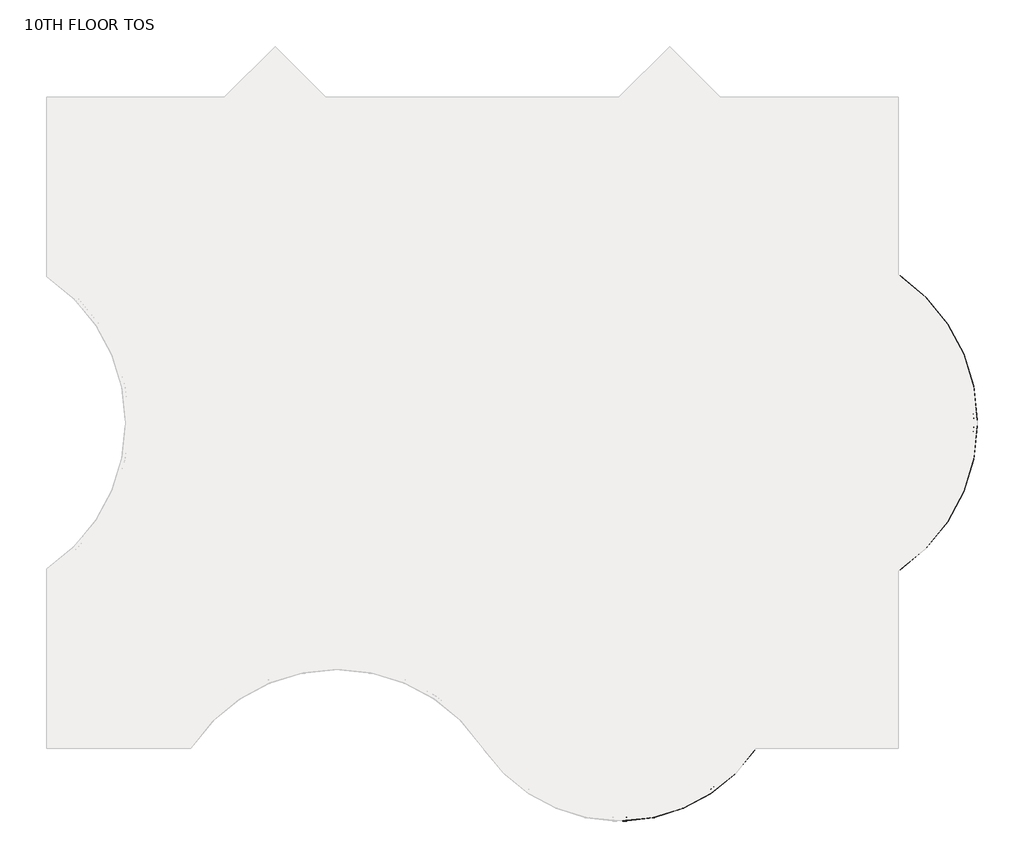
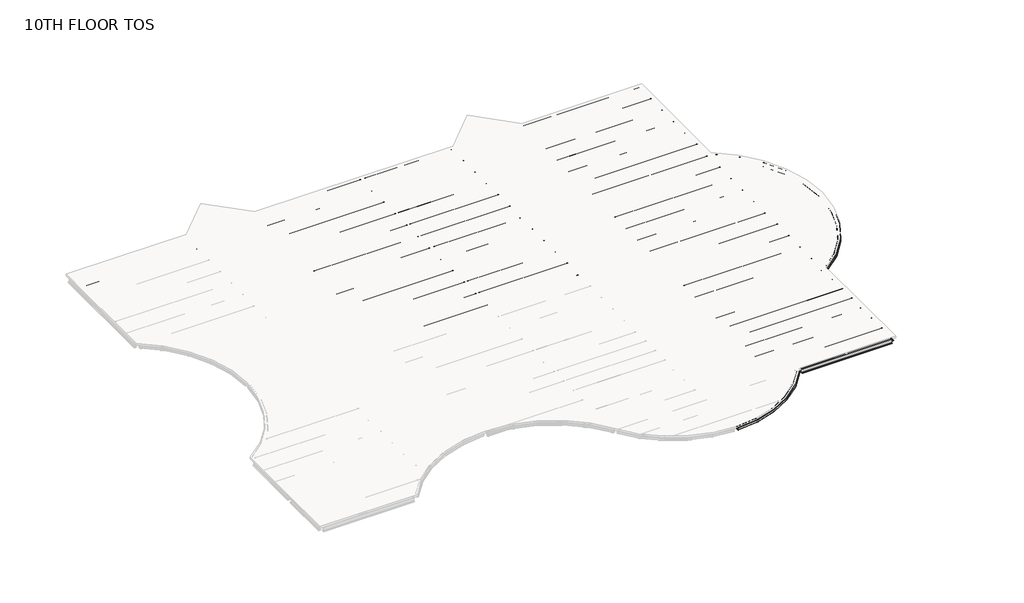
# One storey, part 2 of 2: 110 beams.
"""IFC4 building model written with IfcOpenShell, lengths in millimetres."""

from ifc_helpers import new_model, si_unit, origin, place, context, project, spatial, transform, mapped, element, save
from components import m_hss_square_hss203_2x203_2x9_5_28e91a4e, m_hss_square_hss203_2x203_2x9_5_f31329aa, m_hss_square_hss203_2x203_2x9_5_63507dff, ub_universal_beams_ub254x102x28_7812688d, ub_universal_beams_ub254x102x28_4a38c177, ub_universal_beams_ub305x165x40_c4d0385b, ub_universal_beams_ub305x165x40_19965e16, ub_universal_beams_ub305x165x40_d3abc31d, ub_universal_beams_ub305x165x40_0c73730f, ub_universal_beams_ub305x165x40_2a963f0c, ub_universal_beams_ub305x165x40_9ce7f2ee, ub_universal_beams_ub305x165x40_d184adfd, ub_universal_beams_ub305x165x40_bc7dc938, ub_universal_beams_ub305x165x40_b4233d25, ub_universal_beams_ub356x171x51_c708c058, ub_universal_beams_ub356x171x51_ef72dcdd, ub_universal_beams_ub356x171x51_10b3c54f, ub_universal_beams_ub356x171x51_4c9fd821, ub_universal_beams_ub356x171x51_d1a87c3c, ub_universal_beams_ub356x171x51_fa75724b, ub_universal_beams_ub356x171x51_68db896e, ub_universal_beams_ub356x171x51_c634c4a6, ub_universal_beams_ub356x171x51_995f1560, ub_universal_beams_ub356x171x51_dfc36663, ub_universal_beams_ub356x171x51_11d6b780, ub_universal_beams_ub356x171x51_76b2d20b, ub_universal_beams_ub356x171x51_145ecd4b, ub_universal_beams_ub356x171x51_c7dff8d2, ub_universal_beams_ub356x171x51_8a345439, ub_universal_beams_ub356x171x51_6da510e9, ub_universal_beams_ub356x171x51_e97f8d2e, ub_universal_beams_ub356x171x51_a38b99de, ub_universal_beams_ub356x171x51_d8f4cdde, ub_universal_beams_ub356x171x51_475301e6, ub_universal_beams_ub356x171x51_c03c70fb, ub_universal_beams_ub356x171x51_741bae58

model = new_model("IFC4")

# Units and contexts
model_context = context("Model", 3, world=origin())
ifc_project = project(units=[si_unit("LENGTHUNIT", "METRE", prefix="MILLI")], contexts=[model_context])

# Site, building, storey
site = spatial("IfcSite", under=ifc_project)
building = spatial("IfcBuilding", under=site)
storey = spatial("IfcBuildingStorey", under=building, Name="10TH FLOOR TOS", Elevation=45567.6)

# Beams
placement = place(None, origin())
m_hss_square_hss203_2x203_2x9_5_shape = m_hss_square_hss203_2x203_2x9_5_28e91a4e(model_context)
element("IfcBeam", 1, ObjectType="M_HSS Square : HSS203.2X203.2X9.5", at=placement, inside=storey, context=model_context, shape_type="MappedRepresentation", body=[
    mapped(m_hss_square_hss203_2x203_2x9_5_shape, transform((44027.575, 24539.575, 45466.1), x_axis=(0.8332810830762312, -0.5528495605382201, 0.0), y_axis=(0.5528495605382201, 0.8332810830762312, 0.0), z_axis=(0.0, 0.0, 1.0))),
])
m_hss_square_hss203_2x203_2x9_5_2_shape = m_hss_square_hss203_2x203_2x9_5_f31329aa(model_context)
element("IfcBeam", 2, ObjectType="M_HSS Square : HSS203.2X203.2X9.5", at=placement, inside=storey, context=model_context, shape_type="MappedRepresentation", body=[
    mapped(m_hss_square_hss203_2x203_2x9_5_2_shape, transform((44027.575, 9299.575, 45466.1), x_axis=(0.8332810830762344, 0.5528495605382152, 0.0), y_axis=(-0.5528495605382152, 0.8332810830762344, 0.0), z_axis=(0.0, 0.0, 1.0))),
])
m_hss_square_hss203_2x203_2x9_5_3_shape = m_hss_square_hss203_2x203_2x9_5_63507dff(model_context)
element("IfcBeam", 3, ObjectType="M_HSS Square : HSS203.2X203.2X9.5", at=placement, inside=storey, context=model_context, shape_type="MappedRepresentation", body=[
    mapped(m_hss_square_hss203_2x203_2x9_5_3_shape, transform((36716.575, 155.575, 45466.1), x_axis=(-0.5530174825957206, -0.8331696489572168, 0.0), y_axis=(0.8331696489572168, -0.5530174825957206, 0.0), z_axis=(0.0, 0.0, 1.0))),
])
ub_universal_beams_ub254x102x28_shape = ub_universal_beams_ub254x102x28_7812688d(model_context)
element("IfcBeam", 4, ObjectType="UB-Universal Beams : UB254x102x28", at=placement, inside=storey, context=model_context, shape_type="MappedRepresentation", body=[
    mapped(ub_universal_beams_ub254x102x28_shape, transform((10592.575, 34976.575, 45437.4), x_axis=(0.7071067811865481, 0.7071067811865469, 0.0), y_axis=(-0.7071067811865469, 0.7071067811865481, 0.0), z_axis=(0.0, 0.0, 1.0))),
])
element("IfcBeam", 5, ObjectType="UB-Universal Beams : UB254x102x28", at=placement, inside=storey, context=model_context, shape_type="MappedRepresentation", body=[
    mapped(ub_universal_beams_ub254x102x28_shape, transform((31004.575, 34976.575, 45437.4), x_axis=(0.7071067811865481, 0.7071067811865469, 0.0), y_axis=(-0.7071067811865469, 0.7071067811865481, 0.0), z_axis=(0.0, 0.0, 1.0))),
])
ub_universal_beams_ub254x102x28_2_shape = ub_universal_beams_ub254x102x28_4a38c177(model_context)
element("IfcBeam", 6, ObjectType="UB-Universal Beams : UB254x102x28", at=placement, inside=storey, context=model_context, shape_type="MappedRepresentation", body=[
    mapped(ub_universal_beams_ub254x102x28_2_shape, transform((13178.575, 34976.575, 45437.4), x_axis=(0.707106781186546, -0.707106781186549, 0.0), y_axis=(0.707106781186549, 0.707106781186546, 0.0), z_axis=(0.0, 0.0, 1.0))),
])
element("IfcBeam", 7, ObjectType="UB-Universal Beams : UB254x102x28", at=placement, inside=storey, context=model_context, shape_type="MappedRepresentation", body=[
    mapped(ub_universal_beams_ub254x102x28_2_shape, transform((33590.575, 34976.575, 45437.4), x_axis=(0.7071067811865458, -0.7071067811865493, 0.0), y_axis=(0.7071067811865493, 0.7071067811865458, 0.0), z_axis=(0.0, 0.0, 1.0))),
])
ub_universal_beams_ub305x165x40_shape = ub_universal_beams_ub305x165x40_c4d0385b(model_context)
element("IfcBeam", 8, ObjectType="UB-Universal Beams : UB305x165x40", at=placement, inside=storey, context=model_context, shape_type="MappedRepresentation", body=[
    mapped(ub_universal_beams_ub305x165x40_shape, transform((4727.575, 32159.575, 45415.9), x_axis=(1.0, 0.0, 0.0), y_axis=(0.0, 1.0, 0.0), z_axis=(0.0, 0.0, 1.0))),
])
element("IfcBeam", 9, ObjectType="UB-Universal Beams : UB305x165x40", at=placement, inside=storey, context=model_context, shape_type="MappedRepresentation", body=[
    mapped(ub_universal_beams_ub305x165x40_shape, transform((39455.575, 32159.575, 45415.9), x_axis=(1.0, 0.0, 0.0), y_axis=(0.0, 1.0, 0.0), z_axis=(0.0, 0.0, 1.0))),
])
element("IfcBeam", 10, ObjectType="UB-Universal Beams : UB305x165x40", at=placement, inside=storey, context=model_context, shape_type="MappedRepresentation", body=[
    mapped(ub_universal_beams_ub305x165x40_shape, transform((39455.575, 30635.575, 45415.9), x_axis=(1.0, 0.0, 0.0), y_axis=(0.0, 1.0, 0.0), z_axis=(0.0, 0.0, 1.0))),
])
element("IfcBeam", 11, ObjectType="UB-Universal Beams : UB305x165x40", at=placement, inside=storey, context=model_context, shape_type="MappedRepresentation", body=[
    mapped(ub_universal_beams_ub305x165x40_shape, transform((39455.575, 29111.575, 45415.9), x_axis=(1.0, 0.0, 0.0), y_axis=(0.0, 1.0, 0.0), z_axis=(0.0, 0.0, 1.0))),
])
element("IfcBeam", 12, ObjectType="UB-Universal Beams : UB305x165x40", at=placement, inside=storey, context=model_context, shape_type="MappedRepresentation", body=[
    mapped(ub_universal_beams_ub305x165x40_shape, transform((39455.575, 27587.575, 45415.9), x_axis=(1.0, 0.0, 0.0), y_axis=(0.0, 1.0, 0.0), z_axis=(0.0, 0.0, 1.0))),
])
element("IfcBeam", 13, ObjectType="UB-Universal Beams : UB305x165x40", at=placement, inside=storey, context=model_context, shape_type="MappedRepresentation", body=[
    mapped(ub_universal_beams_ub305x165x40_shape, transform((39455.575, 26063.575, 45415.9), x_axis=(1.0, 0.0, 0.0), y_axis=(0.0, 1.0, 0.0), z_axis=(0.0, 0.0, 1.0))),
])
element("IfcBeam", 14, ObjectType="UB-Universal Beams : UB305x165x40", at=placement, inside=storey, context=model_context, shape_type="MappedRepresentation", body=[
    mapped(ub_universal_beams_ub305x165x40_shape, transform((39455.575, 23015.575, 45415.9), x_axis=(1.0, 0.0, 0.0), y_axis=(0.0, 1.0, 0.0), z_axis=(0.0, 0.0, 1.0))),
])
element("IfcBeam", 15, ObjectType="UB-Universal Beams : UB305x165x40", at=placement, inside=storey, context=model_context, shape_type="MappedRepresentation", body=[
    mapped(ub_universal_beams_ub305x165x40_shape, transform((39455.575, 21491.575, 45415.9), x_axis=(1.0, 0.0, 0.0), y_axis=(0.0, 1.0, 0.0), z_axis=(0.0, 0.0, 1.0))),
])
element("IfcBeam", 16, ObjectType="UB-Universal Beams : UB305x165x40", at=placement, inside=storey, context=model_context, shape_type="MappedRepresentation", body=[
    mapped(ub_universal_beams_ub305x165x40_shape, transform((39455.575, 19967.575, 45415.9), x_axis=(1.0, 0.0, 0.0), y_axis=(0.0, 1.0, 0.0), z_axis=(0.0, 0.0, 1.0))),
])
element("IfcBeam", 17, ObjectType="UB-Universal Beams : UB305x165x40", at=placement, inside=storey, context=model_context, shape_type="MappedRepresentation", body=[
    mapped(ub_universal_beams_ub305x165x40_shape, transform((39455.575, 18443.575, 45415.9), x_axis=(1.0, 0.0, 0.0), y_axis=(0.0, 1.0, 0.0), z_axis=(0.0, 0.0, 1.0))),
])
element("IfcBeam", 18, ObjectType="UB-Universal Beams : UB305x165x40", at=placement, inside=storey, context=model_context, shape_type="MappedRepresentation", body=[
    mapped(ub_universal_beams_ub305x165x40_shape, transform((39455.575, 15395.575, 45415.9), x_axis=(1.0, 0.0, 0.0), y_axis=(0.0, 1.0, 0.0), z_axis=(0.0, 0.0, 1.0))),
])
element("IfcBeam", 19, ObjectType="UB-Universal Beams : UB305x165x40", at=placement, inside=storey, context=model_context, shape_type="MappedRepresentation", body=[
    mapped(ub_universal_beams_ub305x165x40_shape, transform((39455.575, 13871.575, 45415.9), x_axis=(1.0, 0.0, 0.0), y_axis=(0.0, 1.0, 0.0), z_axis=(0.0, 0.0, 1.0))),
])
element("IfcBeam", 20, ObjectType="UB-Universal Beams : UB305x165x40", at=placement, inside=storey, context=model_context, shape_type="MappedRepresentation", body=[
    mapped(ub_universal_beams_ub305x165x40_shape, transform((39455.575, 12347.575, 45415.9), x_axis=(1.0, 0.0, 0.0), y_axis=(0.0, 1.0, 0.0), z_axis=(0.0, 0.0, 1.0))),
])
element("IfcBeam", 21, ObjectType="UB-Universal Beams : UB305x165x40", at=placement, inside=storey, context=model_context, shape_type="MappedRepresentation", body=[
    mapped(ub_universal_beams_ub305x165x40_shape, transform((39455.575, 10823.575, 45415.9), x_axis=(1.0, 0.0, 0.0), y_axis=(0.0, 1.0, 0.0), z_axis=(0.0, 0.0, 1.0))),
])
element("IfcBeam", 22, ObjectType="UB-Universal Beams : UB305x165x40", at=placement, inside=storey, context=model_context, shape_type="MappedRepresentation", body=[
    mapped(ub_universal_beams_ub305x165x40_shape, transform((39455.575, 5508.325, 45415.9), x_axis=(-1.0, 0.0, 0.0), y_axis=(0.0, -1.0, 0.0), z_axis=(0.0, 0.0, 1.0))),
])
element("IfcBeam", 23, ObjectType="UB-Universal Beams : UB305x165x40", at=placement, inside=storey, context=model_context, shape_type="MappedRepresentation", body=[
    mapped(ub_universal_beams_ub305x165x40_shape, transform((39455.575, 6772.075, 45415.9), x_axis=(-1.0, 0.0, 0.0), y_axis=(0.0, -1.0, 0.0), z_axis=(0.0, 0.0, 1.0))),
])
element("IfcBeam", 24, ObjectType="UB-Universal Beams : UB305x165x40", at=placement, inside=storey, context=model_context, shape_type="MappedRepresentation", body=[
    mapped(ub_universal_beams_ub305x165x40_shape, transform((39455.575, 8035.825, 45415.9), x_axis=(-1.0, 0.0, 0.0), y_axis=(0.0, -1.0, 0.0), z_axis=(0.0, 0.0, 1.0))),
])
element("IfcBeam", 25, ObjectType="UB-Universal Beams : UB305x165x40", at=placement, inside=storey, context=model_context, shape_type="MappedRepresentation", body=[
    mapped(ub_universal_beams_ub305x165x40_shape, transform((39455.575, 1518.575, 45415.9), x_axis=(-1.0, 0.0, 0.0), y_axis=(0.0, -1.0, 0.0), z_axis=(0.0, 0.0, 1.0))),
])
element("IfcBeam", 26, ObjectType="UB-Universal Beams : UB305x165x40", at=placement, inside=storey, context=model_context, shape_type="MappedRepresentation", body=[
    mapped(ub_universal_beams_ub305x165x40_shape, transform((39455.575, 2881.575, 45415.9), x_axis=(-1.0, 0.0, 0.0), y_axis=(0.0, -1.0, 0.0), z_axis=(0.0, 0.0, 1.0))),
])
ub_universal_beams_ub305x165x40_2_shape = ub_universal_beams_ub305x165x40_19965e16(model_context)
element("IfcBeam", 27, ObjectType="UB-Universal Beams : UB305x165x40", at=placement, inside=storey, context=model_context, shape_type="MappedRepresentation", body=[
    mapped(ub_universal_beams_ub305x165x40_2_shape, transform((11885.575, 34803.325, 45415.9), x_axis=(1.0, 0.0, 0.0), y_axis=(0.0, 1.0, 0.0), z_axis=(0.0, 0.0, 1.0))),
])
element("IfcBeam", 28, ObjectType="UB-Universal Beams : UB305x165x40", at=placement, inside=storey, context=model_context, shape_type="MappedRepresentation", body=[
    mapped(ub_universal_beams_ub305x165x40_2_shape, transform((32297.575, 34803.325, 45415.9), x_axis=(1.0, 0.0, 0.0), y_axis=(0.0, 1.0, 0.0), z_axis=(0.0, 0.0, 1.0))),
])
ub_universal_beams_ub305x165x40_3_shape = ub_universal_beams_ub305x165x40_d3abc31d(model_context)
element("IfcBeam", 29, ObjectType="UB-Universal Beams : UB305x165x40", at=placement, inside=storey, context=model_context, shape_type="MappedRepresentation", body=[
    mapped(ub_universal_beams_ub305x165x40_3_shape, transform((11885.575, 33337.075, 45415.9), x_axis=(1.0, 0.0, 0.0), y_axis=(0.0, 1.0, 0.0), z_axis=(0.0, 0.0, 1.0))),
])
element("IfcBeam", 30, ObjectType="UB-Universal Beams : UB305x165x40", at=placement, inside=storey, context=model_context, shape_type="MappedRepresentation", body=[
    mapped(ub_universal_beams_ub305x165x40_3_shape, transform((11885.575, 31870.825, 45415.9), x_axis=(1.0, 0.0, 0.0), y_axis=(0.0, 1.0, 0.0), z_axis=(0.0, 0.0, 1.0))),
])
element("IfcBeam", 31, ObjectType="UB-Universal Beams : UB305x165x40", at=placement, inside=storey, context=model_context, shape_type="MappedRepresentation", body=[
    mapped(ub_universal_beams_ub305x165x40_3_shape, transform((11885.575, 30404.575, 45415.9), x_axis=(1.0, 0.0, 0.0), y_axis=(0.0, 1.0, 0.0), z_axis=(0.0, 0.0, 1.0))),
])
element("IfcBeam", 32, ObjectType="UB-Universal Beams : UB305x165x40", at=placement, inside=storey, context=model_context, shape_type="MappedRepresentation", body=[
    mapped(ub_universal_beams_ub305x165x40_3_shape, transform((32297.575, 33337.075, 45415.9), x_axis=(1.0, 0.0, 0.0), y_axis=(0.0, 1.0, 0.0), z_axis=(0.0, 0.0, 1.0))),
])
element("IfcBeam", 33, ObjectType="UB-Universal Beams : UB305x165x40", at=placement, inside=storey, context=model_context, shape_type="MappedRepresentation", body=[
    mapped(ub_universal_beams_ub305x165x40_3_shape, transform((32297.575, 31870.825, 45415.9), x_axis=(1.0, 0.0, 0.0), y_axis=(0.0, 1.0, 0.0), z_axis=(0.0, 0.0, 1.0))),
])
element("IfcBeam", 34, ObjectType="UB-Universal Beams : UB305x165x40", at=placement, inside=storey, context=model_context, shape_type="MappedRepresentation", body=[
    mapped(ub_universal_beams_ub305x165x40_3_shape, transform((32297.575, 30404.575, 45415.9), x_axis=(1.0, 0.0, 0.0), y_axis=(0.0, 1.0, 0.0), z_axis=(0.0, 0.0, 1.0))),
])
element("IfcBeam", 35, ObjectType="UB-Universal Beams : UB305x165x40", at=placement, inside=storey, context=model_context, shape_type="MappedRepresentation", body=[
    mapped(ub_universal_beams_ub305x165x40_3_shape, transform((32297.575, 28938.325, 45415.9), x_axis=(1.0, 0.0, 0.0), y_axis=(0.0, 1.0, 0.0), z_axis=(0.0, 0.0, 1.0))),
])
element("IfcBeam", 36, ObjectType="UB-Universal Beams : UB305x165x40", at=placement, inside=storey, context=model_context, shape_type="MappedRepresentation", body=[
    mapped(ub_universal_beams_ub305x165x40_3_shape, transform((32297.575, 27472.075, 45415.9), x_axis=(1.0, 0.0, 0.0), y_axis=(0.0, 1.0, 0.0), z_axis=(0.0, 0.0, 1.0))),
])
element("IfcBeam", 37, ObjectType="UB-Universal Beams : UB305x165x40", at=placement, inside=storey, context=model_context, shape_type="MappedRepresentation", body=[
    mapped(ub_universal_beams_ub305x165x40_3_shape, transform((32297.575, 26005.825, 45415.9), x_axis=(1.0, 0.0, 0.0), y_axis=(0.0, 1.0, 0.0), z_axis=(0.0, 0.0, 1.0))),
])
element("IfcBeam", 38, ObjectType="UB-Universal Beams : UB305x165x40", at=placement, inside=storey, context=model_context, shape_type="MappedRepresentation", body=[
    mapped(ub_universal_beams_ub305x165x40_3_shape, transform((32297.575, 1518.575, 45415.9), x_axis=(-1.0, 0.0, 0.0), y_axis=(0.0, -1.0, 0.0), z_axis=(0.0, 0.0, 1.0))),
])
element("IfcBeam", 39, ObjectType="UB-Universal Beams : UB305x165x40", at=placement, inside=storey, context=model_context, shape_type="MappedRepresentation", body=[
    mapped(ub_universal_beams_ub305x165x40_3_shape, transform((32297.575, 2881.575, 45415.9), x_axis=(-1.0, 0.0, 0.0), y_axis=(0.0, -1.0, 0.0), z_axis=(0.0, 0.0, 1.0))),
])
element("IfcBeam", 40, ObjectType="UB-Universal Beams : UB305x165x40", at=placement, inside=storey, context=model_context, shape_type="MappedRepresentation", body=[
    mapped(ub_universal_beams_ub305x165x40_3_shape, transform((32297.575, 5508.325, 45415.9), x_axis=(-1.0, 0.0, 0.0), y_axis=(0.0, -1.0, 0.0), z_axis=(0.0, 0.0, 1.0))),
])
element("IfcBeam", 41, ObjectType="UB-Universal Beams : UB305x165x40", at=placement, inside=storey, context=model_context, shape_type="MappedRepresentation", body=[
    mapped(ub_universal_beams_ub305x165x40_3_shape, transform((32297.575, 6772.075, 45415.9), x_axis=(-1.0, 0.0, 0.0), y_axis=(0.0, -1.0, 0.0), z_axis=(0.0, 0.0, 1.0))),
])
element("IfcBeam", 42, ObjectType="UB-Universal Beams : UB305x165x40", at=placement, inside=storey, context=model_context, shape_type="MappedRepresentation", body=[
    mapped(ub_universal_beams_ub305x165x40_3_shape, transform((32297.575, 8035.825, 45415.9), x_axis=(-1.0, 0.0, 0.0), y_axis=(0.0, -1.0, 0.0), z_axis=(0.0, 0.0, 1.0))),
])
element("IfcBeam", 43, ObjectType="UB-Universal Beams : UB305x165x40", at=placement, inside=storey, context=model_context, shape_type="MappedRepresentation", body=[
    mapped(ub_universal_beams_ub305x165x40_3_shape, transform((32297.575, 15395.575, 45415.9), x_axis=(1.0, 0.0, 0.0), y_axis=(0.0, 1.0, 0.0), z_axis=(0.0, 0.0, 1.0))),
])
element("IfcBeam", 44, ObjectType="UB-Universal Beams : UB305x165x40", at=placement, inside=storey, context=model_context, shape_type="MappedRepresentation", body=[
    mapped(ub_universal_beams_ub305x165x40_3_shape, transform((32297.575, 13871.575, 45415.9), x_axis=(1.0, 0.0, 0.0), y_axis=(0.0, 1.0, 0.0), z_axis=(0.0, 0.0, 1.0))),
])
element("IfcBeam", 45, ObjectType="UB-Universal Beams : UB305x165x40", at=placement, inside=storey, context=model_context, shape_type="MappedRepresentation", body=[
    mapped(ub_universal_beams_ub305x165x40_3_shape, transform((32297.575, 12347.575, 45415.9), x_axis=(1.0, 0.0, 0.0), y_axis=(0.0, 1.0, 0.0), z_axis=(0.0, 0.0, 1.0))),
])
element("IfcBeam", 46, ObjectType="UB-Universal Beams : UB305x165x40", at=placement, inside=storey, context=model_context, shape_type="MappedRepresentation", body=[
    mapped(ub_universal_beams_ub305x165x40_3_shape, transform((32297.575, 10823.575, 45415.9), x_axis=(1.0, 0.0, 0.0), y_axis=(0.0, 1.0, 0.0), z_axis=(0.0, 0.0, 1.0))),
])
element("IfcBeam", 47, ObjectType="UB-Universal Beams : UB305x165x40", at=placement, inside=storey, context=model_context, shape_type="MappedRepresentation", body=[
    mapped(ub_universal_beams_ub305x165x40_3_shape, transform((32297.575, 23015.575, 45415.9), x_axis=(1.0, 0.0, 0.0), y_axis=(0.0, 1.0, 0.0), z_axis=(0.0, 0.0, 1.0))),
])
element("IfcBeam", 48, ObjectType="UB-Universal Beams : UB305x165x40", at=placement, inside=storey, context=model_context, shape_type="MappedRepresentation", body=[
    mapped(ub_universal_beams_ub305x165x40_3_shape, transform((32297.575, 21491.575, 45415.9), x_axis=(1.0, 0.0, 0.0), y_axis=(0.0, 1.0, 0.0), z_axis=(0.0, 0.0, 1.0))),
])
element("IfcBeam", 49, ObjectType="UB-Universal Beams : UB305x165x40", at=placement, inside=storey, context=model_context, shape_type="MappedRepresentation", body=[
    mapped(ub_universal_beams_ub305x165x40_3_shape, transform((32297.575, 19967.575, 45415.9), x_axis=(1.0, 0.0, 0.0), y_axis=(0.0, 1.0, 0.0), z_axis=(0.0, 0.0, 1.0))),
])
element("IfcBeam", 50, ObjectType="UB-Universal Beams : UB305x165x40", at=placement, inside=storey, context=model_context, shape_type="MappedRepresentation", body=[
    mapped(ub_universal_beams_ub305x165x40_3_shape, transform((32297.575, 18443.575, 45415.9), x_axis=(1.0, 0.0, 0.0), y_axis=(0.0, 1.0, 0.0), z_axis=(0.0, 0.0, 1.0))),
])
ub_universal_beams_ub305x165x40_4_shape = ub_universal_beams_ub305x165x40_0c73730f(model_context)
element("IfcBeam", 51, ObjectType="UB-Universal Beams : UB305x165x40", at=placement, inside=storey, context=model_context, shape_type="MappedRepresentation", body=[
    mapped(ub_universal_beams_ub305x165x40_4_shape, transform((18591.075, 32159.575, 45415.9), x_axis=(1.0, 0.0, 0.0), y_axis=(0.0, 1.0, 0.0), z_axis=(0.0, 0.0, 1.0))),
])
element("IfcBeam", 52, ObjectType="UB-Universal Beams : UB305x165x40", at=placement, inside=storey, context=model_context, shape_type="MappedRepresentation", body=[
    mapped(ub_universal_beams_ub305x165x40_4_shape, transform((18591.075, 30635.575, 45415.9), x_axis=(1.0, 0.0, 0.0), y_axis=(0.0, 1.0, 0.0), z_axis=(0.0, 0.0, 1.0))),
])
element("IfcBeam", 53, ObjectType="UB-Universal Beams : UB305x165x40", at=placement, inside=storey, context=model_context, shape_type="MappedRepresentation", body=[
    mapped(ub_universal_beams_ub305x165x40_4_shape, transform((18591.075, 29111.575, 45415.9), x_axis=(1.0, 0.0, 0.0), y_axis=(0.0, 1.0, 0.0), z_axis=(0.0, 0.0, 1.0))),
])
element("IfcBeam", 54, ObjectType="UB-Universal Beams : UB305x165x40", at=placement, inside=storey, context=model_context, shape_type="MappedRepresentation", body=[
    mapped(ub_universal_beams_ub305x165x40_4_shape, transform((18591.075, 27587.575, 45415.9), x_axis=(1.0, 0.0, 0.0), y_axis=(0.0, 1.0, 0.0), z_axis=(0.0, 0.0, 1.0))),
])
element("IfcBeam", 55, ObjectType="UB-Universal Beams : UB305x165x40", at=placement, inside=storey, context=model_context, shape_type="MappedRepresentation", body=[
    mapped(ub_universal_beams_ub305x165x40_4_shape, transform((18591.075, 26063.575, 45415.9), x_axis=(1.0, 0.0, 0.0), y_axis=(0.0, 1.0, 0.0), z_axis=(0.0, 0.0, 1.0))),
])
element("IfcBeam", 56, ObjectType="UB-Universal Beams : UB305x165x40", at=placement, inside=storey, context=model_context, shape_type="MappedRepresentation", body=[
    mapped(ub_universal_beams_ub305x165x40_4_shape, transform((18591.075, 23015.575, 45415.9), x_axis=(1.0, 0.0, 0.0), y_axis=(0.0, 1.0, 0.0), z_axis=(0.0, 0.0, 1.0))),
])
element("IfcBeam", 57, ObjectType="UB-Universal Beams : UB305x165x40", at=placement, inside=storey, context=model_context, shape_type="MappedRepresentation", body=[
    mapped(ub_universal_beams_ub305x165x40_4_shape, transform((18591.075, 21491.575, 45415.9), x_axis=(1.0, 0.0, 0.0), y_axis=(0.0, 1.0, 0.0), z_axis=(0.0, 0.0, 1.0))),
])
element("IfcBeam", 58, ObjectType="UB-Universal Beams : UB305x165x40", at=placement, inside=storey, context=model_context, shape_type="MappedRepresentation", body=[
    mapped(ub_universal_beams_ub305x165x40_4_shape, transform((18591.075, 19967.575, 45415.9), x_axis=(1.0, 0.0, 0.0), y_axis=(0.0, 1.0, 0.0), z_axis=(0.0, 0.0, 1.0))),
])
element("IfcBeam", 59, ObjectType="UB-Universal Beams : UB305x165x40", at=placement, inside=storey, context=model_context, shape_type="MappedRepresentation", body=[
    mapped(ub_universal_beams_ub305x165x40_4_shape, transform((18591.075, 18443.575, 45415.9), x_axis=(1.0, 0.0, 0.0), y_axis=(0.0, 1.0, 0.0), z_axis=(0.0, 0.0, 1.0))),
])
ub_universal_beams_ub305x165x40_5_shape = ub_universal_beams_ub305x165x40_2a963f0c(model_context)
element("IfcBeam", 60, ObjectType="UB-Universal Beams : UB305x165x40", at=placement, inside=storey, context=model_context, shape_type="MappedRepresentation", body=[
    mapped(ub_universal_beams_ub305x165x40_5_shape, transform((26211.075, 32159.575, 45415.9), x_axis=(1.0, 0.0, 0.0), y_axis=(0.0, 1.0, 0.0), z_axis=(0.0, 0.0, 1.0))),
])
element("IfcBeam", 61, ObjectType="UB-Universal Beams : UB305x165x40", at=placement, inside=storey, context=model_context, shape_type="MappedRepresentation", body=[
    mapped(ub_universal_beams_ub305x165x40_5_shape, transform((26211.075, 30635.575, 45415.9), x_axis=(1.0, 0.0, 0.0), y_axis=(0.0, 1.0, 0.0), z_axis=(0.0, 0.0, 1.0))),
])
element("IfcBeam", 62, ObjectType="UB-Universal Beams : UB305x165x40", at=placement, inside=storey, context=model_context, shape_type="MappedRepresentation", body=[
    mapped(ub_universal_beams_ub305x165x40_5_shape, transform((26211.075, 29111.575, 45415.9), x_axis=(1.0, 0.0, 0.0), y_axis=(0.0, 1.0, 0.0), z_axis=(0.0, 0.0, 1.0))),
])
element("IfcBeam", 63, ObjectType="UB-Universal Beams : UB305x165x40", at=placement, inside=storey, context=model_context, shape_type="MappedRepresentation", body=[
    mapped(ub_universal_beams_ub305x165x40_5_shape, transform((26211.075, 27587.575, 45415.9), x_axis=(1.0, 0.0, 0.0), y_axis=(0.0, 1.0, 0.0), z_axis=(0.0, 0.0, 1.0))),
])
element("IfcBeam", 64, ObjectType="UB-Universal Beams : UB305x165x40", at=placement, inside=storey, context=model_context, shape_type="MappedRepresentation", body=[
    mapped(ub_universal_beams_ub305x165x40_5_shape, transform((26211.075, 26063.575, 45415.9), x_axis=(1.0, 0.0, 0.0), y_axis=(0.0, 1.0, 0.0), z_axis=(0.0, 0.0, 1.0))),
])
element("IfcBeam", 65, ObjectType="UB-Universal Beams : UB305x165x40", at=placement, inside=storey, context=model_context, shape_type="MappedRepresentation", body=[
    mapped(ub_universal_beams_ub305x165x40_5_shape, transform((26211.075, 23015.575, 45415.9), x_axis=(1.0, 0.0, 0.0), y_axis=(0.0, 1.0, 0.0), z_axis=(0.0, 0.0, 1.0))),
])
element("IfcBeam", 66, ObjectType="UB-Universal Beams : UB305x165x40", at=placement, inside=storey, context=model_context, shape_type="MappedRepresentation", body=[
    mapped(ub_universal_beams_ub305x165x40_5_shape, transform((26211.075, 21491.575, 45415.9), x_axis=(1.0, 0.0, 0.0), y_axis=(0.0, 1.0, 0.0), z_axis=(0.0, 0.0, 1.0))),
])
element("IfcBeam", 67, ObjectType="UB-Universal Beams : UB305x165x40", at=placement, inside=storey, context=model_context, shape_type="MappedRepresentation", body=[
    mapped(ub_universal_beams_ub305x165x40_5_shape, transform((26211.075, 19967.575, 45415.9), x_axis=(1.0, 0.0, 0.0), y_axis=(0.0, 1.0, 0.0), z_axis=(0.0, 0.0, 1.0))),
])
element("IfcBeam", 68, ObjectType="UB-Universal Beams : UB305x165x40", at=placement, inside=storey, context=model_context, shape_type="MappedRepresentation", body=[
    mapped(ub_universal_beams_ub305x165x40_5_shape, transform((26211.075, 18443.575, 45415.9), x_axis=(1.0, 0.0, 0.0), y_axis=(0.0, 1.0, 0.0), z_axis=(0.0, 0.0, 1.0))),
])
ub_universal_beams_ub305x165x40_6_shape = ub_universal_beams_ub305x165x40_9ce7f2ee(model_context)
element("IfcBeam", 69, ObjectType="UB-Universal Beams : UB305x165x40", at=placement, inside=storey, context=model_context, shape_type="MappedRepresentation", body=[
    mapped(ub_universal_beams_ub305x165x40_6_shape, transform((44907.9405309, 23015.575, 45415.9), x_axis=(1.0, 0.0, 0.0), y_axis=(0.0, 1.0, 0.0), z_axis=(0.0, 0.0, 1.0))),
])
element("IfcBeam", 70, ObjectType="UB-Universal Beams : UB305x165x40", at=placement, inside=storey, context=model_context, shape_type="MappedRepresentation", body=[
    mapped(ub_universal_beams_ub305x165x40_6_shape, transform((44907.9405309, 10823.575, 45415.9), x_axis=(1.0, 0.0, 0.0), y_axis=(0.0, 1.0, 0.0), z_axis=(0.0, 0.0, 1.0))),
])
ub_universal_beams_ub305x165x40_7_shape = ub_universal_beams_ub305x165x40_d184adfd(model_context)
element("IfcBeam", 71, ObjectType="UB-Universal Beams : UB305x165x40", at=placement, inside=storey, context=model_context, shape_type="MappedRepresentation", body=[
    mapped(ub_universal_beams_ub305x165x40_7_shape, transform((45459.5874928, 21491.575, 45415.9), x_axis=(1.0, 0.0, 0.0), y_axis=(0.0, 1.0, 0.0), z_axis=(0.0, 0.0, 1.0))),
])
element("IfcBeam", 72, ObjectType="UB-Universal Beams : UB305x165x40", at=placement, inside=storey, context=model_context, shape_type="MappedRepresentation", body=[
    mapped(ub_universal_beams_ub305x165x40_7_shape, transform((45459.5874928, 12347.575, 45415.9), x_axis=(1.0, 0.0, 0.0), y_axis=(0.0, 1.0, 0.0), z_axis=(0.0, 0.0, 1.0))),
])
ub_universal_beams_ub305x165x40_8_shape = ub_universal_beams_ub305x165x40_bc7dc938(model_context)
element("IfcBeam", 73, ObjectType="UB-Universal Beams : UB305x165x40", at=placement, inside=storey, context=model_context, shape_type="MappedRepresentation", body=[
    mapped(ub_universal_beams_ub305x165x40_8_shape, transform((45810.6153272, 19967.575, 45415.9), x_axis=(1.0, 0.0, 0.0), y_axis=(0.0, 1.0, 0.0), z_axis=(0.0, 0.0, 1.0))),
])
element("IfcBeam", 74, ObjectType="UB-Universal Beams : UB305x165x40", at=placement, inside=storey, context=model_context, shape_type="MappedRepresentation", body=[
    mapped(ub_universal_beams_ub305x165x40_8_shape, transform((45810.6153272, 13871.575, 45415.9), x_axis=(1.0, 0.0, 0.0), y_axis=(0.0, 1.0, 0.0), z_axis=(0.0, 0.0, 1.0))),
])
ub_universal_beams_ub305x165x40_9_shape = ub_universal_beams_ub305x165x40_b4233d25(model_context)
element("IfcBeam", 75, ObjectType="UB-Universal Beams : UB305x165x40", at=placement, inside=storey, context=model_context, shape_type="MappedRepresentation", body=[
    mapped(ub_universal_beams_ub305x165x40_9_shape, transform((46008.1318611, 18443.575, 45415.9), x_axis=(1.0, 0.0, 0.0), y_axis=(0.0, 1.0, 0.0), z_axis=(0.0, 0.0, 1.0))),
])
element("IfcBeam", 76, ObjectType="UB-Universal Beams : UB305x165x40", at=placement, inside=storey, context=model_context, shape_type="MappedRepresentation", body=[
    mapped(ub_universal_beams_ub305x165x40_9_shape, transform((46008.1318611, 15395.575, 45415.9), x_axis=(1.0, 0.0, 0.0), y_axis=(0.0, 1.0, 0.0), z_axis=(0.0, 0.0, 1.0))),
])
ub_universal_beams_ub356x171x51_shape = ub_universal_beams_ub356x171x51_c708c058(model_context)
element("IfcBeam", 77, ObjectType="UB-Universal Beams : UB356x171x51", at=placement, inside=storey, context=model_context, shape_type="MappedRepresentation", body=[
    mapped(ub_universal_beams_ub356x171x51_shape, transform((2200.075, 33683.575, 45390.1), x_axis=(1.0, 0.0, 0.0), y_axis=(0.0, 1.0, 0.0), z_axis=(0.0, 0.0, 1.0))),
])
ub_universal_beams_ub356x171x51_2_shape = ub_universal_beams_ub356x171x51_ef72dcdd(model_context)
element("IfcBeam", 78, ObjectType="UB-Universal Beams : UB356x171x51", at=placement, inside=storey, context=model_context, shape_type="MappedRepresentation", body=[
    mapped(ub_universal_beams_ub356x171x51_2_shape, transform((6772.075, 33683.575, 45390.1), x_axis=(1.0, 0.0, 0.0), y_axis=(0.0, 1.0, 0.0), z_axis=(0.0, 0.0, 1.0))),
])
element("IfcBeam", 79, ObjectType="UB-Universal Beams : UB356x171x51", at=placement, inside=storey, context=model_context, shape_type="MappedRepresentation", body=[
    mapped(ub_universal_beams_ub356x171x51_2_shape, transform((34883.575, 6772.075, 45390.1), x_axis=(0.0, -1.0, 0.0), y_axis=(1.0, 0.0, 0.0), z_axis=(0.0, 0.0, 1.0))),
])
ub_universal_beams_ub356x171x51_3_shape = ub_universal_beams_ub356x171x51_10b3c54f(model_context)
element("IfcBeam", 80, ObjectType="UB-Universal Beams : UB356x171x51", at=placement, inside=storey, context=model_context, shape_type="MappedRepresentation", body=[
    mapped(ub_universal_beams_ub356x171x51_3_shape, transform((18591.075, 33683.575, 45390.1), x_axis=(1.0, 0.0, 0.0), y_axis=(0.0, 1.0, 0.0), z_axis=(0.0, 0.0, 1.0))),
])
ub_universal_beams_ub356x171x51_4_shape = ub_universal_beams_ub356x171x51_4c9fd821(model_context)
element("IfcBeam", 81, ObjectType="UB-Universal Beams : UB356x171x51", at=placement, inside=storey, context=model_context, shape_type="MappedRepresentation", body=[
    mapped(ub_universal_beams_ub356x171x51_4_shape, transform((26211.075, 33683.575, 45390.1), x_axis=(1.0, 0.0, 0.0), y_axis=(0.0, 1.0, 0.0), z_axis=(0.0, 0.0, 1.0))),
])
ub_universal_beams_ub356x171x51_5_shape = ub_universal_beams_ub356x171x51_d1a87c3c(model_context)
element("IfcBeam", 82, ObjectType="UB-Universal Beams : UB356x171x51", at=placement, inside=storey, context=model_context, shape_type="MappedRepresentation", body=[
    mapped(ub_universal_beams_ub356x171x51_5_shape, transform((39455.575, 33683.575, 45390.1), x_axis=(1.0, 0.0, 0.0), y_axis=(0.0, 1.0, 0.0), z_axis=(0.0, 0.0, 1.0))),
])
ub_universal_beams_ub356x171x51_6_shape = ub_universal_beams_ub356x171x51_fa75724b(model_context)
element("IfcBeam", 83, ObjectType="UB-Universal Beams : UB356x171x51", at=placement, inside=storey, context=model_context, shape_type="MappedRepresentation", body=[
    mapped(ub_universal_beams_ub356x171x51_6_shape, transform((44027.575, 29111.575, 45390.1), x_axis=(0.0, -1.0, 0.0), y_axis=(1.0, 0.0, 0.0), z_axis=(0.0, 0.0, 1.0))),
])
ub_universal_beams_ub356x171x51_7_shape = ub_universal_beams_ub356x171x51_68db896e(model_context)
element("IfcBeam", 84, ObjectType="UB-Universal Beams : UB356x171x51", at=placement, inside=storey, context=model_context, shape_type="MappedRepresentation", body=[
    mapped(ub_universal_beams_ub356x171x51_7_shape, transform((44027.575, 6772.075, 45390.1), x_axis=(0.0, -1.0, 0.0), y_axis=(1.0, 0.0, 0.0), z_axis=(0.0, 0.0, 1.0))),
])
ub_universal_beams_ub356x171x51_8_shape = ub_universal_beams_ub356x171x51_c634c4a6(model_context)
element("IfcBeam", 85, ObjectType="UB-Universal Beams : UB356x171x51", at=placement, inside=storey, context=model_context, shape_type="MappedRepresentation", body=[
    mapped(ub_universal_beams_ub356x171x51_8_shape, transform((44027.575, 2200.075, 45390.1), x_axis=(0.0, -1.0, 0.0), y_axis=(1.0, 0.0, 0.0), z_axis=(0.0, 0.0, 1.0))),
])
ub_universal_beams_ub356x171x51_9_shape = ub_universal_beams_ub356x171x51_995f1560(model_context)
element("IfcBeam", 86, ObjectType="UB-Universal Beams : UB356x171x51", at=placement, inside=storey, context=model_context, shape_type="MappedRepresentation", body=[
    mapped(ub_universal_beams_ub356x171x51_9_shape, transform((40372.075, 155.575, 45390.1), x_axis=(-1.0, 0.0, 0.0), y_axis=(0.0, -1.0, 0.0), z_axis=(0.0, 0.0, 1.0))),
])
ub_universal_beams_ub356x171x51_10_shape = ub_universal_beams_ub356x171x51_dfc36663(model_context)
element("IfcBeam", 87, ObjectType="UB-Universal Beams : UB356x171x51", at=placement, inside=storey, context=model_context, shape_type="MappedRepresentation", body=[
    mapped(ub_universal_beams_ub356x171x51_10_shape, transform((46072.075, 16919.575, 45390.1), x_axis=(1.0, 0.0, 0.0), y_axis=(0.0, 1.0, 0.0), z_axis=(0.0, 0.0, 1.0))),
])
ub_universal_beams_ub356x171x51_11_shape = ub_universal_beams_ub356x171x51_11d6b780(model_context)
element("IfcBeam", 88, ObjectType="UB-Universal Beams : UB356x171x51", at=placement, inside=storey, context=model_context, shape_type="MappedRepresentation", body=[
    mapped(ub_universal_beams_ub356x171x51_11_shape, transform((32297.575, 24539.575, 45390.1), x_axis=(1.0, 0.0, 0.0), y_axis=(0.0, 1.0, 0.0), z_axis=(0.0, 0.0, 1.0))),
])
element("IfcBeam", 89, ObjectType="UB-Universal Beams : UB356x171x51", at=placement, inside=storey, context=model_context, shape_type="MappedRepresentation", body=[
    mapped(ub_universal_beams_ub356x171x51_11_shape, transform((32297.575, 9299.575, 45390.1), x_axis=(-1.0, 0.0, 0.0), y_axis=(0.0, -1.0, 0.0), z_axis=(0.0, 0.0, 1.0))),
])
element("IfcBeam", 90, ObjectType="UB-Universal Beams : UB356x171x51", at=placement, inside=storey, context=model_context, shape_type="MappedRepresentation", body=[
    mapped(ub_universal_beams_ub356x171x51_11_shape, transform((32297.575, 16919.575, 45390.1), x_axis=(1.0, 0.0, 0.0), y_axis=(0.0, 1.0, 0.0), z_axis=(0.0, 0.0, 1.0))),
])
element("IfcBeam", 91, ObjectType="UB-Universal Beams : UB356x171x51", at=placement, inside=storey, context=model_context, shape_type="MappedRepresentation", body=[
    mapped(ub_universal_beams_ub356x171x51_11_shape, transform((32297.575, 4244.575, 45390.1), x_axis=(-1.0, 0.0, 0.0), y_axis=(0.0, -1.0, 0.0), z_axis=(0.0, 0.0, 1.0))),
])
ub_universal_beams_ub356x171x51_12_shape = ub_universal_beams_ub356x171x51_76b2d20b(model_context)
element("IfcBeam", 92, ObjectType="UB-Universal Beams : UB356x171x51", at=placement, inside=storey, context=model_context, shape_type="MappedRepresentation", body=[
    mapped(ub_universal_beams_ub356x171x51_12_shape, transform((18591.075, 24539.575, 45390.1), x_axis=(1.0, 0.0, 0.0), y_axis=(0.0, 1.0, 0.0), z_axis=(0.0, 0.0, 1.0))),
])
element("IfcBeam", 93, ObjectType="UB-Universal Beams : UB356x171x51", at=placement, inside=storey, context=model_context, shape_type="MappedRepresentation", body=[
    mapped(ub_universal_beams_ub356x171x51_12_shape, transform((18591.075, 16919.575, 45390.1), x_axis=(1.0, 0.0, 0.0), y_axis=(0.0, 1.0, 0.0), z_axis=(0.0, 0.0, 1.0))),
])
ub_universal_beams_ub356x171x51_13_shape = ub_universal_beams_ub356x171x51_145ecd4b(model_context)
element("IfcBeam", 94, ObjectType="UB-Universal Beams : UB356x171x51", at=placement, inside=storey, context=model_context, shape_type="MappedRepresentation", body=[
    mapped(ub_universal_beams_ub356x171x51_13_shape, transform((26211.075, 24539.575, 45390.1), x_axis=(1.0, 0.0, 0.0), y_axis=(0.0, 1.0, 0.0), z_axis=(0.0, 0.0, 1.0))),
])
element("IfcBeam", 95, ObjectType="UB-Universal Beams : UB356x171x51", at=placement, inside=storey, context=model_context, shape_type="MappedRepresentation", body=[
    mapped(ub_universal_beams_ub356x171x51_13_shape, transform((26211.075, 16919.575, 45390.1), x_axis=(1.0, 0.0, 0.0), y_axis=(0.0, 1.0, 0.0), z_axis=(0.0, 0.0, 1.0))),
])
ub_universal_beams_ub356x171x51_14_shape = ub_universal_beams_ub356x171x51_c7dff8d2(model_context)
element("IfcBeam", 96, ObjectType="UB-Universal Beams : UB356x171x51", at=placement, inside=storey, context=model_context, shape_type="MappedRepresentation", body=[
    mapped(ub_universal_beams_ub356x171x51_14_shape, transform((39455.575, 24539.575, 45390.1), x_axis=(1.0, 0.0, 0.0), y_axis=(0.0, 1.0, 0.0), z_axis=(0.0, 0.0, 1.0))),
])
ub_universal_beams_ub356x171x51_15_shape = ub_universal_beams_ub356x171x51_8a345439(model_context)
element("IfcBeam", 97, ObjectType="UB-Universal Beams : UB356x171x51", at=placement, inside=storey, context=model_context, shape_type="MappedRepresentation", body=[
    mapped(ub_universal_beams_ub356x171x51_15_shape, transform((44027.575, 20729.575, 45390.1), x_axis=(0.0, -1.0, 0.0), y_axis=(1.0, 0.0, 0.0), z_axis=(0.0, 0.0, 1.0))),
])
ub_universal_beams_ub356x171x51_16_shape = ub_universal_beams_ub356x171x51_6da510e9(model_context)
element("IfcBeam", 98, ObjectType="UB-Universal Beams : UB356x171x51", at=placement, inside=storey, context=model_context, shape_type="MappedRepresentation", body=[
    mapped(ub_universal_beams_ub356x171x51_16_shape, transform((44027.575, 13109.575, 45390.1), x_axis=(0.0, -1.0, 0.0), y_axis=(1.0, 0.0, 0.0), z_axis=(0.0, 0.0, 1.0))),
])
ub_universal_beams_ub356x171x51_17_shape = ub_universal_beams_ub356x171x51_e97f8d2e(model_context)
element("IfcBeam", 99, ObjectType="UB-Universal Beams : UB356x171x51", at=placement, inside=storey, context=model_context, shape_type="MappedRepresentation", body=[
    mapped(ub_universal_beams_ub356x171x51_17_shape, transform((39455.575, 9299.575, 45390.1), x_axis=(-1.0, 0.0, 0.0), y_axis=(0.0, -1.0, 0.0), z_axis=(0.0, 0.0, 1.0))),
])
ub_universal_beams_ub356x171x51_18_shape = ub_universal_beams_ub356x171x51_a38b99de(model_context)
element("IfcBeam", 100, ObjectType="UB-Universal Beams : UB356x171x51", at=placement, inside=storey, context=model_context, shape_type="MappedRepresentation", body=[
    mapped(ub_universal_beams_ub356x171x51_18_shape, transform((34883.575, 20729.575, 45390.1), x_axis=(0.0, -1.0, 0.0), y_axis=(1.0, 0.0, 0.0), z_axis=(0.0, 0.0, 1.0))),
])
element("IfcBeam", 101, ObjectType="UB-Universal Beams : UB356x171x51", at=placement, inside=storey, context=model_context, shape_type="MappedRepresentation", body=[
    mapped(ub_universal_beams_ub356x171x51_18_shape, transform((34883.575, 13109.575, 45390.1), x_axis=(0.0, -1.0, 0.0), y_axis=(1.0, 0.0, 0.0), z_axis=(0.0, 0.0, 1.0))),
])
element("IfcBeam", 102, ObjectType="UB-Universal Beams : UB356x171x51", at=placement, inside=storey, context=model_context, shape_type="MappedRepresentation", body=[
    mapped(ub_universal_beams_ub356x171x51_18_shape, transform((22710.575, 20729.575, 45390.1), x_axis=(0.0, -1.0, 0.0), y_axis=(1.0, 0.0, 0.0), z_axis=(0.0, 0.0, 1.0))),
])
element("IfcBeam", 103, ObjectType="UB-Universal Beams : UB356x171x51", at=placement, inside=storey, context=model_context, shape_type="MappedRepresentation", body=[
    mapped(ub_universal_beams_ub356x171x51_18_shape, transform((29711.575, 20729.575, 45390.1), x_axis=(0.0, 1.0, 0.0), y_axis=(-1.0, 0.0, 0.0), z_axis=(0.0, 0.0, 1.0))),
])
ub_universal_beams_ub356x171x51_19_shape = ub_universal_beams_ub356x171x51_d8f4cdde(model_context)
element("IfcBeam", 104, ObjectType="UB-Universal Beams : UB356x171x51", at=placement, inside=storey, context=model_context, shape_type="MappedRepresentation", body=[
    mapped(ub_universal_beams_ub356x171x51_19_shape, transform((29711.575, 29111.575, 45390.1), x_axis=(0.0, 1.0, 0.0), y_axis=(-1.0, 0.0, 0.0), z_axis=(0.0, 0.0, 1.0))),
])
ub_universal_beams_ub356x171x51_20_shape = ub_universal_beams_ub356x171x51_475301e6(model_context)
element("IfcBeam", 105, ObjectType="UB-Universal Beams : UB356x171x51", at=placement, inside=storey, context=model_context, shape_type="MappedRepresentation", body=[
    mapped(ub_universal_beams_ub356x171x51_20_shape, transform((39455.575, 16919.575, 45390.1), x_axis=(1.0, 0.0, 0.0), y_axis=(0.0, 1.0, 0.0), z_axis=(0.0, 0.0, 1.0))),
])
element("IfcBeam", 106, ObjectType="UB-Universal Beams : UB356x171x51", at=placement, inside=storey, context=model_context, shape_type="MappedRepresentation", body=[
    mapped(ub_universal_beams_ub356x171x51_20_shape, transform((39455.575, 4244.575, 45390.1), x_axis=(-1.0, 0.0, 0.0), y_axis=(0.0, -1.0, 0.0), z_axis=(0.0, 0.0, 1.0))),
])
ub_universal_beams_ub356x171x51_21_shape = ub_universal_beams_ub356x171x51_c03c70fb(model_context)
element("IfcBeam", 107, ObjectType="UB-Universal Beams : UB356x171x51", at=placement, inside=storey, context=model_context, shape_type="MappedRepresentation", body=[
    mapped(ub_universal_beams_ub356x171x51_21_shape, transform((34883.575, 29111.575, 45390.1), x_axis=(0.0, -1.0, 0.0), y_axis=(1.0, 0.0, 0.0), z_axis=(0.0, 0.0, 1.0))),
])
element("IfcBeam", 108, ObjectType="UB-Universal Beams : UB356x171x51", at=placement, inside=storey, context=model_context, shape_type="MappedRepresentation", body=[
    mapped(ub_universal_beams_ub356x171x51_21_shape, transform((14471.575, 29111.575, 45390.1), x_axis=(0.0, -1.0, 0.0), y_axis=(1.0, 0.0, 0.0), z_axis=(0.0, 0.0, 1.0))),
])
element("IfcBeam", 109, ObjectType="UB-Universal Beams : UB356x171x51", at=placement, inside=storey, context=model_context, shape_type="MappedRepresentation", body=[
    mapped(ub_universal_beams_ub356x171x51_21_shape, transform((22710.575, 29111.575, 45390.1), x_axis=(0.0, -1.0, 0.0), y_axis=(1.0, 0.0, 0.0), z_axis=(0.0, 0.0, 1.0))),
])
ub_universal_beams_ub356x171x51_22_shape = ub_universal_beams_ub356x171x51_741bae58(model_context)
element("IfcBeam", 110, ObjectType="UB-Universal Beams : UB356x171x51", at=placement, inside=storey, context=model_context, shape_type="MappedRepresentation", body=[
    mapped(ub_universal_beams_ub356x171x51_22_shape, transform((34883.575, 2200.075, 45390.1), x_axis=(0.0, -1.0, 0.0), y_axis=(1.0, 0.0, 0.0), z_axis=(0.0, 0.0, 1.0))),
])

save(model, "model.ifc")
